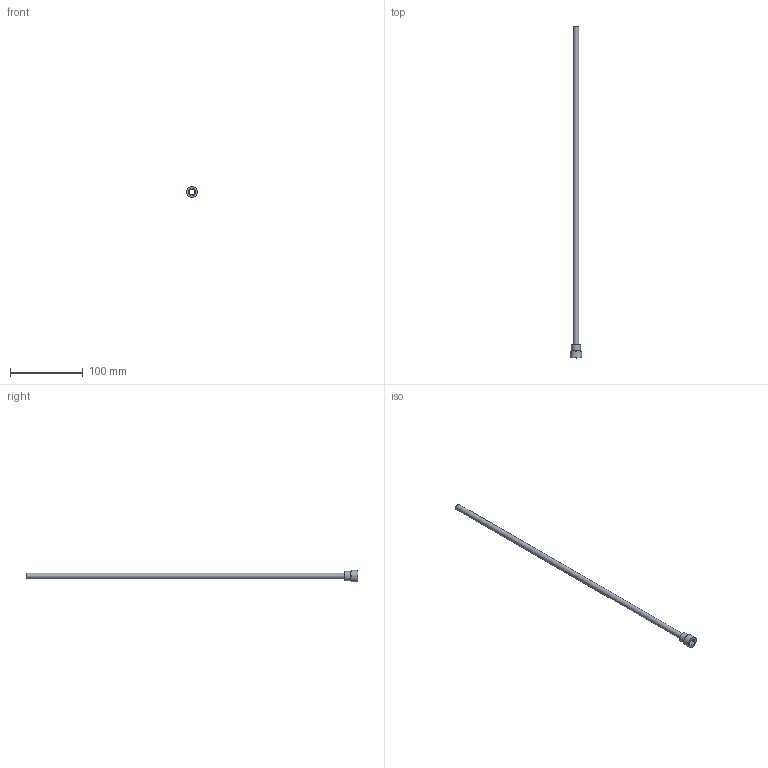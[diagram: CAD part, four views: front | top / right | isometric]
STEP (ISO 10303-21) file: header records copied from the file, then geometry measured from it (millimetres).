
FILE_DESCRIPTION(/* description */ (''),/* implementation_level */ '2;1');
FILE_NAME(/* name */ 'C:/Users/drich/Desktop/JR312T-18 v1.step',/* time_stamp */ '2019-12-30T13:06:56-06:00',/* author */ (''),/* organization */ (''),/* preprocessor_version */ 'ST-DEVELOPER v18',/* originating_system */ 'Autodesk Translation Framework v8.12.0.6',/* authorisation */ '');
FILE_SCHEMA (('AUTOMOTIVE_DESIGN { 1 0 10303 214 3 1 1 }'));
Length unit declared in the file: inch
Products named in the file (1): JR312T-18
Bounding box: 15.75 x 457.2 x 15.75 mm (x, y, z)
Volume: 5153.4 mm3; surface area: 22622.8 mm2
Topology: 1 solids, 1 shells, 19 faces, 47 edges, 33 vertices
Faces by surface type: plane 11, cylinder 4, torus 3, cone 1
Full cylindrical faces by diameter (mm): 7.315 x1, 7.925 x1, 12.565 x1, 15.748 x1
Entity records: 624 total; most frequent: DIRECTION 111, CARTESIAN_POINT 100, ORIENTED_EDGE 94, EDGE_CURVE 47, AXIS2_PLACEMENT_3D 44, VERTEX_POINT 33, EDGE_LOOP 24, CIRCLE 24
